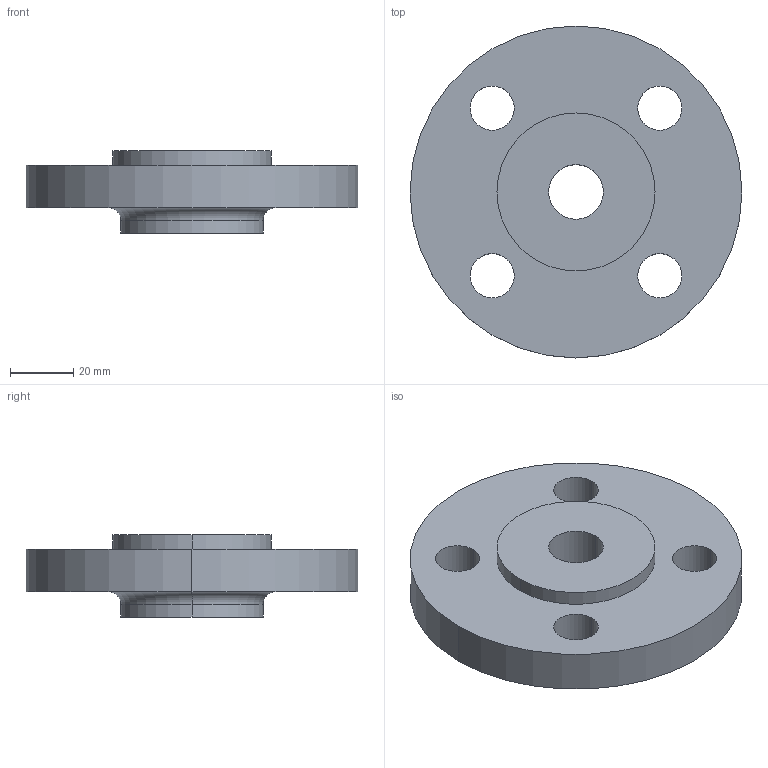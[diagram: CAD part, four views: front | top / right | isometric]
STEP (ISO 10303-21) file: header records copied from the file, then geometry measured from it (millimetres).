
FILE_DESCRIPTION (( 'STEP AP214' ), '1' );
FILE_NAME ('PN40 DN20 Type 13 - Type E Face.STEP', '2018-12-30T04:09:21', ( '' ), ( '' ), 'SwSTEP 2.0', 'SolidWorks 2019', '' );
FILE_SCHEMA (( 'AUTOMOTIVE_DESIGN' ));
Length unit declared in the file: millimetre
Products named in the file (1): PN40 DN20 Type 13 - Type E Face
Bounding box: 105 x 105 x 26 mm (x, y, z)
Volume: 124540.5 mm3; surface area: 25459.8 mm2
Topology: 1 solids, 1 shells, 22 faces, 52 edges, 34 vertices
Faces by surface type: cylinder 16, plane 4, torus 2
Entity records: 710 total; most frequent: DIRECTION 134, CARTESIAN_POINT 109, ORIENTED_EDGE 104, AXIS2_PLACEMENT_3D 59, EDGE_CURVE 52, CIRCLE 36, EDGE_LOOP 34, VERTEX_POINT 34
